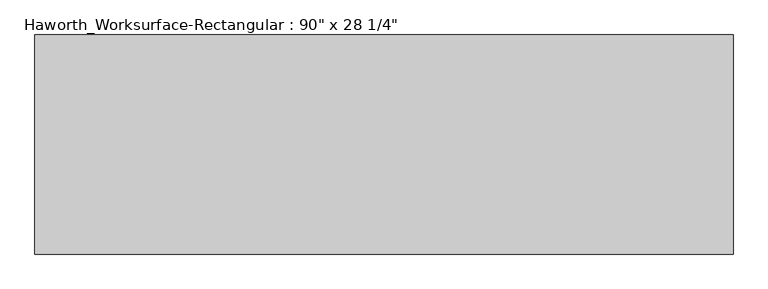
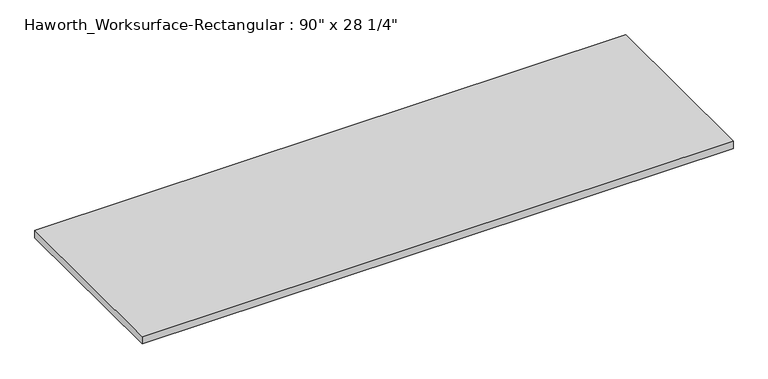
"""IFC4 building model written with IfcOpenShell, lengths in millimetres: furniture geometry."""

import ifcopenshell
import ifcopenshell.guid

model = None  # the IFC model being written
_history = None  # IfcOwnerHistory: only IFC2X3 demands one
_inside = {}  # id of a spatial element -> (the spatial element, [elements in it])
_under = {}  # id of a project, library or spatial element -> (it, [spatial elements below it])
_declared = {}  # id of a project -> (the project, [libraries it declares])
_typed = {}  # id of a type object -> (the type object, [elements of that type])
_made_of = {}  # id of a material, layer set ... -> (it, [elements and type objects made of it])


def new_model(schema):
    """Start an empty IFC model of exactly this schema.

    Asked for "IFC4X3", IfcOpenShell would pick the latest addendum, in which some entities
    have other attributes; the version numbers below select the first issue.
    IFC2X3 requires an IfcOwnerHistory on every rooted entity: one is made here for all.
    """
    global model, _history
    if schema == "IFC4X3":
        model = ifcopenshell.file(schema_version=(4, 3, 0, 0))
    else:
        model = ifcopenshell.file(schema=schema)
    _inside.clear()
    _under.clear()
    _declared.clear()
    _typed.clear()
    _made_of.clear()
    _history = None
    if model.schema == "IFC2X3":
        org = make("IfcOrganization", Name="unknown")
        user = make(
            "IfcPersonAndOrganization",
            ThePerson=make("IfcPerson", FamilyName="unknown"),
            TheOrganization=org,
        )
        app = make(
            "IfcApplication",
            ApplicationDeveloper=org,
            Version="unknown",
            ApplicationFullName="unknown",
            ApplicationIdentifier="unknown",
        )
        _history = make(
            "IfcOwnerHistory",
            OwningUser=user,
            OwningApplication=app,
            ChangeAction="ADDED",
            CreationDate=0,
        )
    return model


def make(cls, **values):
    """One entity of the class cls with the attributes given. An attribute that is None is left unset."""
    return model.create_entity(
        cls, **{name: value for name, value in values.items() if value is not None}
    )


def rooted(cls, **values):
    """An entity with a GlobalId (a new one), such as an element, a storey or a relation."""
    return make(cls, GlobalId=ifcopenshell.guid.new(), OwnerHistory=_history, **values)


def si_unit(unit_type, name, prefix=None):
    """IfcSIUnit, for example si_unit("LENGTHUNIT", "METRE", prefix="MILLI")."""
    return make("IfcSIUnit", UnitType=unit_type, Prefix=prefix, Name=name)


def assignment(units):
    """IfcUnitAssignment: the units of a project."""
    return None if units is None else make("IfcUnitAssignment", Units=units)


def point(xyz):
    """IfcCartesianPoint."""
    return None if xyz is None else make("IfcCartesianPoint", Coordinates=xyz)


def direction(xyz):
    """IfcDirection."""
    return None if xyz is None else make("IfcDirection", DirectionRatios=xyz)


def frame(location, z_axis=None, x_axis=None):
    """IfcAxis2Placement3D, a coordinate frame: its origin and axes. An axis left out is left unset."""
    return make(
        "IfcAxis2Placement3D",
        Location=point(location),
        Axis=direction(z_axis),
        RefDirection=direction(x_axis),
    )


def origin():
    """The frame at (0, 0, 0) with its axes left unset."""
    return frame((0.0, 0.0, 0.0))


def place(relative_to, where):
    """IfcLocalPlacement: puts the frame where relative to a parent placement (None: the world)."""
    return make(
        "IfcLocalPlacement", PlacementRelTo=relative_to, RelativePlacement=where
    )


def context(
    kind, dimensions, precision=None, world=None, true_north=None, identifier=None
):
    """IfcGeometricRepresentationContext, for example the 3D "Model" context."""
    return make(
        "IfcGeometricRepresentationContext",
        ContextIdentifier=identifier,
        ContextType=kind,
        CoordinateSpaceDimension=dimensions,
        Precision=precision,
        WorldCoordinateSystem=world,
        TrueNorth=true_north,
    )


def project(units=None, contexts=None):
    """IfcProject with its units and contexts."""
    return rooted(
        "IfcProject",
        Name="project",
        RepresentationContexts=contexts,
        UnitsInContext=assignment(units),
    )


def spatial(cls, under=None, at=None, **own):
    """A site, building, storey or space (cls), placed at a placement, below another one or the project."""
    s = rooted(cls, ObjectPlacement=at, **own)
    if under is not None:
        _under.setdefault(under.id(), (under, []))[1].append(s)
    return s


def polyline(points):
    """IfcPolyline through the points."""
    return make("IfcPolyline", Points=[point(p) for p in points])


def outline(outer, holes=None, kind="AREA"):
    """IfcArbitraryClosedProfileDef: a profile drawn as a closed curve; with holes, ...WithVoids."""
    if holes is None:
        return make("IfcArbitraryClosedProfileDef", ProfileType=kind, OuterCurve=outer)
    return make(
        "IfcArbitraryProfileDefWithVoids",
        ProfileType=kind,
        OuterCurve=outer,
        InnerCurves=holes,
    )


def extrude(swept, where, along, depth):
    """IfcExtrudedAreaSolid: the profile swept, set in the frame where, extruded along a direction by depth."""
    return make(
        "IfcExtrudedAreaSolid",
        SweptArea=swept,
        Position=where,
        ExtrudedDirection=direction(along),
        Depth=depth,
    )


def shape(context_of_items, identifier, shape_type, items):
    """IfcShapeRepresentation: the items that make up one representation, for example the "Body"."""
    return make(
        "IfcShapeRepresentation",
        ContextOfItems=context_of_items,
        RepresentationIdentifier=identifier,
        RepresentationType=shape_type,
        Items=items,
    )


def source(mapping_origin, context_of_items, identifier, shape_type, items):
    """IfcRepresentationMap: a shape defined once, which mapped items show again and again."""
    return make(
        "IfcRepresentationMap",
        MappingOrigin=mapping_origin,
        MappedRepresentation=shape(context_of_items, identifier, shape_type, items),
    )


def transform(
    local_origin,
    x_axis=None,
    y_axis=None,
    z_axis=None,
    scale=None,
    scale2=None,
    scale3=None,
    uniform=True,
):
    """IfcCartesianTransformationOperator3D, or its non-uniform kind. x_axis, y_axis, z_axis: its Axis1, 2, 3."""
    if uniform:
        return make(
            "IfcCartesianTransformationOperator3D",
            Axis1=direction(x_axis),
            Axis2=direction(y_axis),
            LocalOrigin=point(local_origin),
            Scale=scale,
            Axis3=direction(z_axis),
        )
    return make(
        "IfcCartesianTransformationOperator3DnonUniform",
        Axis1=direction(x_axis),
        Axis2=direction(y_axis),
        LocalOrigin=point(local_origin),
        Scale=scale,
        Axis3=direction(z_axis),
        Scale2=scale2,
        Scale3=scale3,
    )


def mapped(mapping_source, mapping_target):
    """IfcMappedItem: shows the shape of a source again, moved by a transform."""
    return make(
        "IfcMappedItem", MappingSource=mapping_source, MappingTarget=mapping_target
    )


def made_of(thing, what):
    """Note that an element or type object is made of a material, layer set ...; save() writes the relation."""
    if what is not None:
        _made_of.setdefault(what.id(), (what, []))[1].append(thing)
    return thing


def element(
    cls,
    number,
    at=None,
    inside=None,
    cuts=None,
    type_object=None,
    material=None,
    context=None,
    identifier="Body",
    shape_type=None,
    held_by="IfcProductDefinitionShape",
    body=None,
    shapes=None,
    **own,
):
    """One element of the class cls, such as IfcWall. Its Tag is "e" and its number.

    at: its placement. inside: the storey or other place that contains it. cuts: it is an
    opening in that element (IfcRelVoidsElement). A single representation is given by context,
    identifier, shape_type and body (its items); several are given by shapes. held_by: the class
    of the entity that holds the representations. save() writes the other relations.
    """
    e = rooted(cls, Tag="e%d" % number, ObjectPlacement=at, **own)
    if body is not None:
        shapes = [shape(context, identifier, shape_type, body)]
    if shapes is not None:
        e.Representation = make(held_by, Representations=shapes)
    if inside is not None:
        _inside.setdefault(inside.id(), (inside, []))[1].append(e)
    if cuts is not None:
        rooted(
            "IfcRelVoidsElement", RelatingBuildingElement=cuts, RelatedOpeningElement=e
        )
    if type_object is not None:
        _typed.setdefault(type_object.id(), (type_object, []))[1].append(e)
    return made_of(e, material)


def aggregate(whole, parts):
    """IfcRelAggregates: a whole, such as a stair, and the parts it consists of."""
    return rooted("IfcRelAggregates", RelatingObject=whole, RelatedObjects=parts)


def save(model, path):
    """Write the relations noted so far, then the file.

    IfcRelAggregates (storeys below a building ...), IfcRelContainedInSpatialStructure (elements
    in a storey), IfcRelDefinesByType, IfcRelAssociatesMaterial and IfcRelDeclares: one each for
    every whole, place, type object, material and project.
    """
    for whole, parts in _under.values():
        aggregate(whole, parts)
    for where, things in _inside.values():
        rooted(
            "IfcRelContainedInSpatialStructure",
            RelatedElements=things,
            RelatingStructure=where,
        )
    for kind, things in _typed.values():
        rooted("IfcRelDefinesByType", RelatedObjects=things, RelatingType=kind)
    for what, things in _made_of.values():
        rooted("IfcRelAssociatesMaterial", RelatedObjects=things, RelatingMaterial=what)
    for by, libraries in _declared.values():
        rooted("IfcRelDeclares", RelatingContext=by, RelatedDefinitions=libraries)
    model.write(path)


def furniture_ea66191a(model_context):
    return source(origin(), model_context, "Body", "SweptSolid", [
        extrude(outline(polyline([(1143.0, 358.775), (1143.0, -358.775), (-1143.0, -358.775), (-1143.0, 358.775), (1143.0, 358.775)])), frame((0.0, 0.0, 706.4375), z_axis=(0.0, 0.0, 1.0), x_axis=(1.0, 0.0, 0.0)), (0.0, 0.0, 1.0), 30.1625),
    ])


if __name__ == "__main__":
    model = new_model("IFC4")
    model_context = context("Model", 3, world=origin())
    ifc_project = project(units=[si_unit("LENGTHUNIT", "METRE", prefix="MILLI")], contexts=[model_context])
    site = spatial("IfcSite", under=ifc_project)
    building = spatial("IfcBuilding", under=site)
    placement = place(None, origin())
    furniture_shape = furniture_ea66191a(model_context)
    element("IfcFurniture", 1, ObjectType="Haworth_Worksurface-Rectangular : 90\" x 28 1/4\"", at=placement, inside=building, context=model_context, shape_type="MappedRepresentation", body=[
        mapped(furniture_shape, transform((0.0, 0.0, 0.0), x_axis=(1.0, 0.0, 0.0), y_axis=(0.0, 1.0, 0.0), z_axis=(0.0, 0.0, 1.0))),
    ])
    save(model, "model.ifc")
